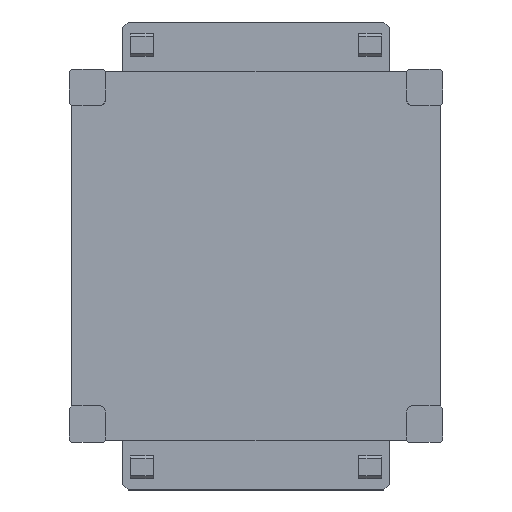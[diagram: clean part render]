
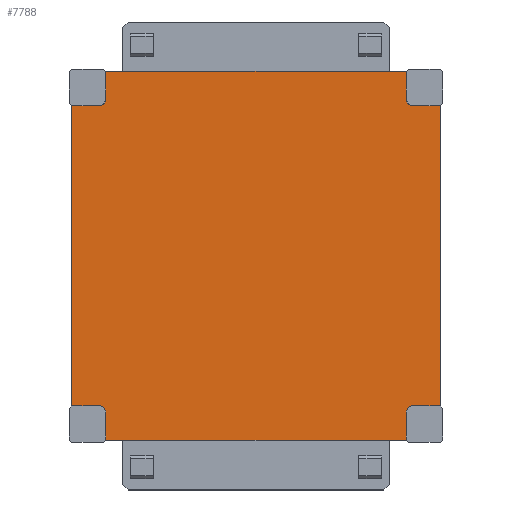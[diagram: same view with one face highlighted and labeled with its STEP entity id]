
A CAD part, top view. The second image highlights one B-rep face of the part: STEP entity #7788.
In plain terms, the highlighted planar face has unit normal (0, 0, 1).
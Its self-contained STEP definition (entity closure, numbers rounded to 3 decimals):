
#263=LINE('',#11555,#883);
#292=LINE('',#11618,#912);
#296=LINE('',#11625,#916);
#297=LINE('',#11629,#917);
#326=LINE('',#11692,#946);
#330=LINE('',#11699,#950);
#331=LINE('',#11703,#951);
#360=LINE('',#11766,#980);
#364=LINE('',#11773,#984);
#365=LINE('',#11777,#985);
#394=LINE('',#11840,#1014);
#398=LINE('',#11847,#1018);
#556=LINE('',#12373,#1176);
#557=LINE('',#12374,#1177);
#558=LINE('',#12377,#1178);
#559=LINE('',#12378,#1179);
#560=LINE('',#12381,#1180);
#561=LINE('',#12382,#1181);
#562=LINE('',#12385,#1182);
#563=LINE('',#12386,#1183);
#883=VECTOR('',#9308,23.5);
#912=VECTOR('',#9361,23.5);
#916=VECTOR('',#9367,0.5);
#917=VECTOR('',#9370,23.5);
#946=VECTOR('',#9423,23.5);
#950=VECTOR('',#9429,0.5);
#951=VECTOR('',#9432,23.5);
#980=VECTOR('',#9485,23.5);
#984=VECTOR('',#9491,0.5);
#985=VECTOR('',#9494,23.5);
#1014=VECTOR('',#9547,23.5);
#1018=VECTOR('',#9553,0.5);
#1176=VECTOR('',#10031,0.5);
#1177=VECTOR('',#10032,263.);
#1178=VECTOR('',#10035,0.5);
#1179=VECTOR('',#10036,263.);
#1180=VECTOR('',#10039,0.5);
#1181=VECTOR('',#10040,263.);
#1182=VECTOR('',#10043,0.5);
#1183=VECTOR('',#10044,263.);
#1564=PLANE('',#8415);
#2482=FACE_OUTER_BOUND('',#3022,.T.);
#3022=EDGE_LOOP('',(#6460,#6461,#6462,#6463,#6464,#6465,#6466,#6467,#6468,
#6469,#6470,#6471,#6472,#6473,#6474,#6475,#6476,#6477,#6478,#6479,#6480,
#6481,#6482,#6483));
#3497=CIRCLE('',#8416,6.);
#3498=CIRCLE('',#8417,6.);
#3499=CIRCLE('',#8418,6.);
#3500=CIRCLE('',#8419,6.);
#3830=VERTEX_POINT('',#11553);
#3831=VERTEX_POINT('',#11554);
#3852=VERTEX_POINT('',#11613);
#3853=VERTEX_POINT('',#11617);
#3855=VERTEX_POINT('',#11623);
#3856=VERTEX_POINT('',#11627);
#3857=VERTEX_POINT('',#11628);
#3878=VERTEX_POINT('',#11687);
#3879=VERTEX_POINT('',#11691);
#3881=VERTEX_POINT('',#11697);
#3882=VERTEX_POINT('',#11701);
#3883=VERTEX_POINT('',#11702);
#3904=VERTEX_POINT('',#11761);
#3905=VERTEX_POINT('',#11765);
#3907=VERTEX_POINT('',#11771);
#3908=VERTEX_POINT('',#11775);
#3909=VERTEX_POINT('',#11776);
#3928=VERTEX_POINT('',#11831);
#3931=VERTEX_POINT('',#11839);
#3933=VERTEX_POINT('',#11845);
#4105=VERTEX_POINT('',#12371);
#4106=VERTEX_POINT('',#12375);
#4107=VERTEX_POINT('',#12379);
#4108=VERTEX_POINT('',#12383);
#4598=EDGE_CURVE('',#3830,#3831,#263,.T.);
#4629=EDGE_CURVE('',#3853,#3852,#292,.T.);
#4633=EDGE_CURVE('',#3852,#3855,#296,.T.);
#4634=EDGE_CURVE('',#3856,#3857,#297,.T.);
#4665=EDGE_CURVE('',#3879,#3878,#326,.T.);
#4669=EDGE_CURVE('',#3878,#3881,#330,.T.);
#4670=EDGE_CURVE('',#3882,#3883,#331,.T.);
#4701=EDGE_CURVE('',#3905,#3904,#360,.T.);
#4705=EDGE_CURVE('',#3904,#3907,#364,.T.);
#4706=EDGE_CURVE('',#3908,#3909,#365,.T.);
#4737=EDGE_CURVE('',#3928,#3931,#394,.T.);
#4741=EDGE_CURVE('',#3909,#3933,#398,.T.);
#4978=EDGE_CURVE('',#3907,#4105,#3497,.T.);
#4979=EDGE_CURVE('',#4105,#3882,#556,.T.);
#4980=EDGE_CURVE('',#3883,#3853,#557,.T.);
#4981=EDGE_CURVE('',#3855,#4106,#3498,.T.);
#4982=EDGE_CURVE('',#4106,#3830,#558,.T.);
#4983=EDGE_CURVE('',#3831,#3879,#559,.T.);
#4984=EDGE_CURVE('',#3881,#4107,#3499,.T.);
#4985=EDGE_CURVE('',#4107,#3856,#560,.T.);
#4986=EDGE_CURVE('',#3857,#3908,#561,.T.);
#4987=EDGE_CURVE('',#3933,#4108,#3500,.T.);
#4988=EDGE_CURVE('',#4108,#3928,#562,.T.);
#4989=EDGE_CURVE('',#3931,#3905,#563,.T.);
#6460=ORIENTED_EDGE('',*,*,#4701,.T.);
#6461=ORIENTED_EDGE('',*,*,#4705,.T.);
#6462=ORIENTED_EDGE('',*,*,#4978,.T.);
#6463=ORIENTED_EDGE('',*,*,#4979,.T.);
#6464=ORIENTED_EDGE('',*,*,#4670,.T.);
#6465=ORIENTED_EDGE('',*,*,#4980,.T.);
#6466=ORIENTED_EDGE('',*,*,#4629,.T.);
#6467=ORIENTED_EDGE('',*,*,#4633,.T.);
#6468=ORIENTED_EDGE('',*,*,#4981,.T.);
#6469=ORIENTED_EDGE('',*,*,#4982,.T.);
#6470=ORIENTED_EDGE('',*,*,#4598,.T.);
#6471=ORIENTED_EDGE('',*,*,#4983,.T.);
#6472=ORIENTED_EDGE('',*,*,#4665,.T.);
#6473=ORIENTED_EDGE('',*,*,#4669,.T.);
#6474=ORIENTED_EDGE('',*,*,#4984,.T.);
#6475=ORIENTED_EDGE('',*,*,#4985,.T.);
#6476=ORIENTED_EDGE('',*,*,#4634,.T.);
#6477=ORIENTED_EDGE('',*,*,#4986,.T.);
#6478=ORIENTED_EDGE('',*,*,#4706,.T.);
#6479=ORIENTED_EDGE('',*,*,#4741,.T.);
#6480=ORIENTED_EDGE('',*,*,#4987,.T.);
#6481=ORIENTED_EDGE('',*,*,#4988,.T.);
#6482=ORIENTED_EDGE('',*,*,#4737,.T.);
#6483=ORIENTED_EDGE('',*,*,#4989,.T.);
#7788=ADVANCED_FACE('',(#2482),#1564,.T.);
#8415=AXIS2_PLACEMENT_3D('',#12370,#10027,#10028);
#8416=AXIS2_PLACEMENT_3D('',#12372,#10029,#10030);
#8417=AXIS2_PLACEMENT_3D('',#12376,#10033,#10034);
#8418=AXIS2_PLACEMENT_3D('',#12380,#10037,#10038);
#8419=AXIS2_PLACEMENT_3D('',#12384,#10041,#10042);
#9308=DIRECTION('',(1.,0.,0.));
#9361=DIRECTION('',(0.,1.,0.));
#9367=DIRECTION('',(0.,1.,0.));
#9370=DIRECTION('',(0.,1.,0.));
#9423=DIRECTION('',(-1.,0.,0.));
#9429=DIRECTION('',(-1.,0.,0.));
#9432=DIRECTION('',(0.,-1.,0.));
#9485=DIRECTION('',(1.,0.,0.));
#9491=DIRECTION('',(1.,0.,0.));
#9494=DIRECTION('',(0.,-1.,0.));
#9547=DIRECTION('',(-1.,0.,0.));
#9553=DIRECTION('',(0.,-1.,0.));
#10027=DIRECTION('center_axis',(0.,0.,
1.));
#10028=DIRECTION('ref_axis',(1.,0.,0.));
#10029=DIRECTION('center_axis',(0.,0.,
-1.));
#10030=DIRECTION('ref_axis',(-1.,0.,0.));
#10031=DIRECTION('',(0.,-1.,0.));
#10032=DIRECTION('',(1.,0.,0.));
#10033=DIRECTION('center_axis',(0.,0.,
-1.));
#10034=DIRECTION('ref_axis',(0.,1.,0.));
#10035=DIRECTION('',(1.,0.,0.));
#10036=DIRECTION('',(0.,1.,0.));
#10037=DIRECTION('center_axis',(0.,0.,
-1.));
#10038=DIRECTION('ref_axis',(1.,0.,0.));
#10039=DIRECTION('',(0.,1.,0.));
#10040=DIRECTION('',(-1.,0.,0.));
#10041=DIRECTION('center_axis',(0.,0.,
-1.));
#10042=DIRECTION('ref_axis',(0.,1.,0.));
#10043=DIRECTION('',(-1.,0.,0.));
#10044=DIRECTION('',(0.,-1.,0.));
#11553=CARTESIAN_POINT('',(138.,-131.5,111.05));
#11554=CARTESIAN_POINT('',(161.5,-131.5,111.05));
#11555=CARTESIAN_POINT('',(68.75,-131.5,111.05));
#11613=CARTESIAN_POINT('',(131.5,-138.,111.05));
#11617=CARTESIAN_POINT('',(131.5,-161.5,111.05));
#11618=CARTESIAN_POINT('',(131.5,-80.75,111.05));
#11623=CARTESIAN_POINT('',(131.5,-137.5,111.05));
#11625=CARTESIAN_POINT('',(131.5,-80.75,111.05));
#11627=CARTESIAN_POINT('',(131.5,138.,111.05));
#11628=CARTESIAN_POINT('',(131.5,161.5,111.05));
#11629=CARTESIAN_POINT('',(131.5,68.75,111.05));
#11687=CARTESIAN_POINT('',(138.,131.5,111.05));
#11691=CARTESIAN_POINT('',(161.5,131.5,111.05));
#11692=CARTESIAN_POINT('',(80.75,131.5,111.05));
#11697=CARTESIAN_POINT('',(137.5,131.5,111.05));
#11699=CARTESIAN_POINT('',(80.75,131.5,111.05));
#11701=CARTESIAN_POINT('',(-131.5,-138.,111.05));
#11702=CARTESIAN_POINT('',(-131.5,-161.5,111.05));
#11703=CARTESIAN_POINT('',(-131.5,-68.75,111.05));
#11761=CARTESIAN_POINT('',(-138.,-131.5,111.05));
#11765=CARTESIAN_POINT('',(-161.5,-131.5,111.05));
#11766=CARTESIAN_POINT('',(-80.75,-131.5,111.05));
#11771=CARTESIAN_POINT('',(-137.5,-131.5,111.05));
#11773=CARTESIAN_POINT('',(-80.75,-131.5,111.05));
#11775=CARTESIAN_POINT('',(-131.5,161.5,111.05));
#11776=CARTESIAN_POINT('',(-131.5,138.,111.05));
#11777=CARTESIAN_POINT('',(-131.5,80.75,111.05));
#11831=CARTESIAN_POINT('',(-138.,131.5,111.05));
#11839=CARTESIAN_POINT('',(-161.5,131.5,111.05));
#11840=CARTESIAN_POINT('',(-68.75,131.5,111.05));
#11845=CARTESIAN_POINT('',(-131.5,137.5,111.05));
#11847=CARTESIAN_POINT('',(-131.5,80.75,111.05));
#12370=CARTESIAN_POINT('Origin',(0.,0.,
111.05));
#12371=CARTESIAN_POINT('',(-131.5,-137.5,111.05));
#12372=CARTESIAN_POINT('Origin',(-137.5,-137.5,111.05));
#12373=CARTESIAN_POINT('',(-131.5,-68.75,111.05));
#12374=CARTESIAN_POINT('',(161.5,-161.5,111.05));
#12375=CARTESIAN_POINT('',(137.5,-131.5,111.05));
#12376=CARTESIAN_POINT('Origin',(137.5,-137.5,111.05));
#12377=CARTESIAN_POINT('',(68.75,-131.5,111.05));
#12378=CARTESIAN_POINT('',(161.5,161.5,111.05));
#12379=CARTESIAN_POINT('',(131.5,137.5,111.05));
#12380=CARTESIAN_POINT('Origin',(137.5,137.5,111.05));
#12381=CARTESIAN_POINT('',(131.5,68.75,111.05));
#12382=CARTESIAN_POINT('',(-161.5,161.5,111.05));
#12383=CARTESIAN_POINT('',(-137.5,131.5,111.05));
#12384=CARTESIAN_POINT('Origin',(-137.5,137.5,111.05));
#12385=CARTESIAN_POINT('',(-68.75,131.5,111.05));
#12386=CARTESIAN_POINT('',(-161.5,-161.5,111.05));
